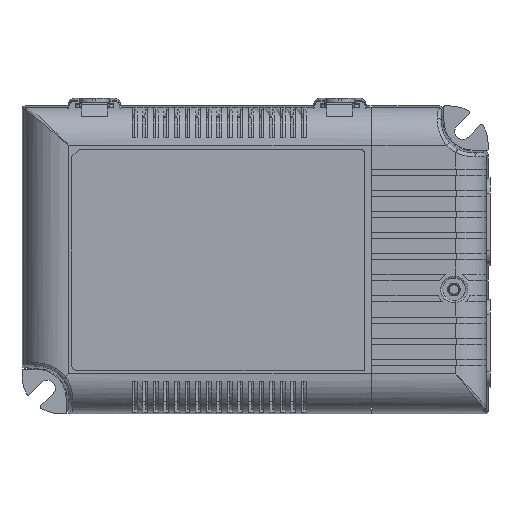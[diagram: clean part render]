
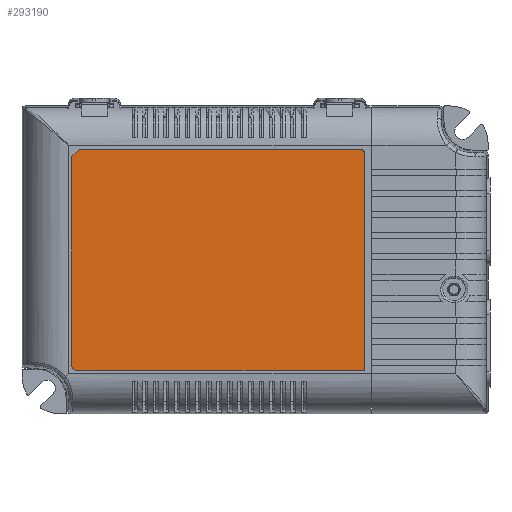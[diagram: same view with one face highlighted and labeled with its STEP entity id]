
A CAD part, top view. The second image highlights one B-rep face of the part: STEP entity #293190.
In plain terms, the highlighted planar face has unit normal (0, 0, 1).
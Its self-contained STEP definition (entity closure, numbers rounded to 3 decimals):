
#292250=CARTESIAN_POINT('',(-16.992,-19.65,17.1));
#292260=VERTEX_POINT('',#292250);
#292290=CARTESIAN_POINT('',(-16.992,-19.65,17.1));
#292300=DIRECTION('',(1.,0.,0.));
#292310=VECTOR('',#292300,1.);
#292320=LINE('',#292290,#292310);
#292330=CARTESIAN_POINT('',(59.508,-19.65,17.1));
#292340=VERTEX_POINT('',#292330);
#292350=EDGE_CURVE('',#292260,#292340,#292320,.T.);
#292510=CARTESIAN_POINT('',(59.508,37.85,17.1));
#292520=DIRECTION('',(0.,-1.,0.));
#292530=VECTOR('',#292520,1.);
#292540=LINE('',#292510,#292530);
#292550=CARTESIAN_POINT('',(59.508,37.85,17.1));
#292560=VERTEX_POINT('',#292550);
#292570=EDGE_CURVE('',#292560,#292340,#292540,.T.);
#292700=CARTESIAN_POINT('',(25.624,25.278,17.1
));
#292710=DIRECTION('',(0.,0.,1.));
#292720=DIRECTION('',(1.,0.,0.));
#292730=AXIS2_PLACEMENT_3D('',#292700,#292710,#292720);
#292740=PLANE('',#292730);
#292750=ORIENTED_EDGE('',*,*,#292350,.T.);
#292760=CARTESIAN_POINT('',(-16.992,-18.65,17.1));
#292770=DIRECTION('',(0.,0.,1.));
#292780=DIRECTION('',(-1.,0.,0.));
#292790=AXIS2_PLACEMENT_3D('',#292760,#292770,#292780);
#292800=CIRCLE('',#292790,1.);
#292810=CARTESIAN_POINT('',(-17.992,-18.65,17.1));
#292820=VERTEX_POINT('',#292810);
#292830=EDGE_CURVE('',#292820,#292260,#292800,.T.);
#292840=ORIENTED_EDGE('',*,*,#292830,.T.);
#292850=CARTESIAN_POINT('',(-17.992,36.85,17.1));
#292860=DIRECTION('',(0.,-1.,0.));
#292870=VECTOR('',#292860,1.);
#292880=LINE('',#292850,#292870);
#292890=CARTESIAN_POINT('',(-17.992,36.85,17.1));
#292900=VERTEX_POINT('',#292890);
#292910=EDGE_CURVE('',#292900,#292820,#292880,.T.);
#292920=ORIENTED_EDGE('',*,*,#292910,.T.);
#292930=CARTESIAN_POINT('',(-15.992,38.85,17.1));
#292940=DIRECTION('',(-0.707,-0.707,0.));
#292950=VECTOR('',#292940,1.);
#292960=LINE('',#292930,#292950);
#292970=CARTESIAN_POINT('',(-15.992,38.85,17.1));
#292980=VERTEX_POINT('',#292970);
#292990=EDGE_CURVE('',#292980,#292900,#292960,.T.);
#293000=ORIENTED_EDGE('',*,*,#292990,.T.);
#293010=CARTESIAN_POINT('',(58.508,38.85,17.1));
#293020=DIRECTION('',(-1.,0.,0.));
#293030=VECTOR('',#293020,1.);
#293040=LINE('',#293010,#293030);
#293050=CARTESIAN_POINT('',(58.508,38.85,17.1));
#293060=VERTEX_POINT('',#293050);
#293070=EDGE_CURVE('',#293060,#292980,#293040,.T.);
#293080=ORIENTED_EDGE('',*,*,#293070,.T.);
#293090=CARTESIAN_POINT('',(58.508,37.85,17.1));
#293100=DIRECTION('',(0.,0.,1.));
#293110=DIRECTION('',(1.,0.,0.));
#293120=AXIS2_PLACEMENT_3D('',#293090,#293100,#293110);
#293130=CIRCLE('',#293120,1.);
#293140=EDGE_CURVE('',#292560,#293060,#293130,.T.);
#293150=ORIENTED_EDGE('',*,*,#293140,.T.);
#293160=ORIENTED_EDGE('',*,*,#292570,.F.);
#293170=EDGE_LOOP('',(#293160,#293150,#293080,#293000,#292920,#292840,
#292750));
#293180=FACE_OUTER_BOUND('',#293170,.T.);
#293190=ADVANCED_FACE('',(#293180),#292740,.T.);
